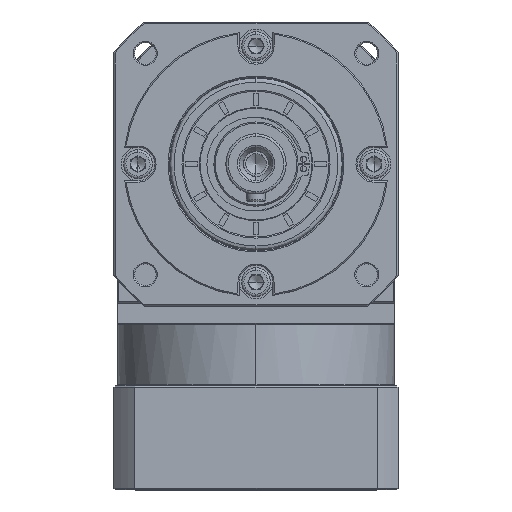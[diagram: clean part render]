
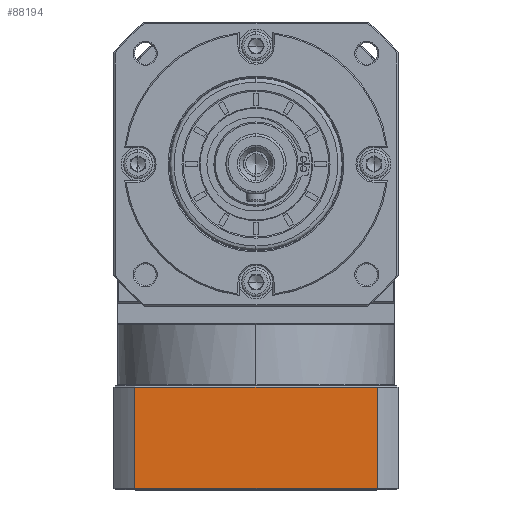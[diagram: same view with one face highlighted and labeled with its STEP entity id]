
A CAD part, top view. The second image highlights one B-rep face of the part: STEP entity #88194.
In plain terms, the highlighted planar face has unit normal (0, 0, 1).
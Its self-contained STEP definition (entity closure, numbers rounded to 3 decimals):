
#4417 = EDGE_CURVE ( 'NONE', #38220, #161968, #137034, .T. ) ;
#4683 = DIRECTION ( 'NONE',  ( -1., 0., 0. ) ) ;
#9584 = DIRECTION ( 'NONE',  ( -1., 0., 0. ) ) ;
#13139 = EDGE_LOOP ( 'NONE', ( #37657, #141822, #146519, #136888 ) ) ;
#14138 = DIRECTION ( 'NONE',  ( 0., 1., 0. ) ) ;
#20935 = VECTOR ( 'NONE', #117672, 1000. ) ;
#28982 = EDGE_CURVE ( 'NONE', #130006, #157866, #148865, .T. ) ;
#35333 = CARTESIAN_POINT ( 'NONE',  ( -250.427, -183.793, 94.557 ) ) ;
#37657 = ORIENTED_EDGE ( 'NONE', *, *, #93828, .F. ) ;
#38220 = VERTEX_POINT ( 'NONE', #56393 ) ;
#42563 = CARTESIAN_POINT ( 'NONE',  ( -241.678, -183.293, 94.557 ) ) ;
#43750 = EDGE_CURVE ( 'NONE', #161968, #130006, #167758, .T. ) ;
#56393 = CARTESIAN_POINT ( 'NONE',  ( -141.175, -183.293, 94.557 ) ) ;
#64689 = AXIS2_PLACEMENT_3D ( 'NONE', #35333, #127079, #9584 ) ;
#65415 = CARTESIAN_POINT ( 'NONE',  ( -250.427, -141.293, 94.557 ) ) ;
#69877 = CARTESIAN_POINT ( 'NONE',  ( -250.427, -183.293, 94.557 ) ) ;
#78551 = DIRECTION ( 'NONE',  ( 1., 0., 0. ) ) ;
#82779 = FACE_OUTER_BOUND ( 'NONE', #13139, .T. ) ;
#88194 = ADVANCED_FACE ( 'NONE', ( #82779 ), #139625, .F. ) ;
#89738 = VECTOR ( 'NONE', #4683, 1000. ) ;
#92501 = CARTESIAN_POINT ( 'NONE',  ( -241.678, -183.793, 94.557 ) ) ;
#93828 = EDGE_CURVE ( 'NONE', #157866, #38220, #133711, .T. ) ;
#95501 = VECTOR ( 'NONE', #78551, 1000. ) ;
#116542 = CARTESIAN_POINT ( 'NONE',  ( -141.175, 80.602, 94.557 ) ) ;
#117672 = DIRECTION ( 'NONE',  ( 0., -1., 0. ) ) ;
#127079 = DIRECTION ( 'NONE',  ( 0., 0., -1. ) ) ;
#130006 = VERTEX_POINT ( 'NONE', #165339 ) ;
#132814 = CARTESIAN_POINT ( 'NONE',  ( -141.175, -141.293, 94.557 ) ) ;
#133711 = LINE ( 'NONE', #116542, #20935 ) ;
#136888 = ORIENTED_EDGE ( 'NONE', *, *, #4417, .F. ) ;
#137034 = LINE ( 'NONE', #69877, #89738 ) ;
#139625 = PLANE ( 'NONE',  #64689 ) ;
#141822 = ORIENTED_EDGE ( 'NONE', *, *, #28982, .F. ) ;
#146519 = ORIENTED_EDGE ( 'NONE', *, *, #43750, .F. ) ;
#148865 = LINE ( 'NONE', #65415, #95501 ) ;
#157866 = VERTEX_POINT ( 'NONE', #132814 ) ;
#161968 = VERTEX_POINT ( 'NONE', #42563 ) ;
#165339 = CARTESIAN_POINT ( 'NONE',  ( -241.678, -141.293, 94.557 ) ) ;
#165815 = VECTOR ( 'NONE', #14138, 1000. ) ;
#167758 = LINE ( 'NONE', #92501, #165815 ) ;
